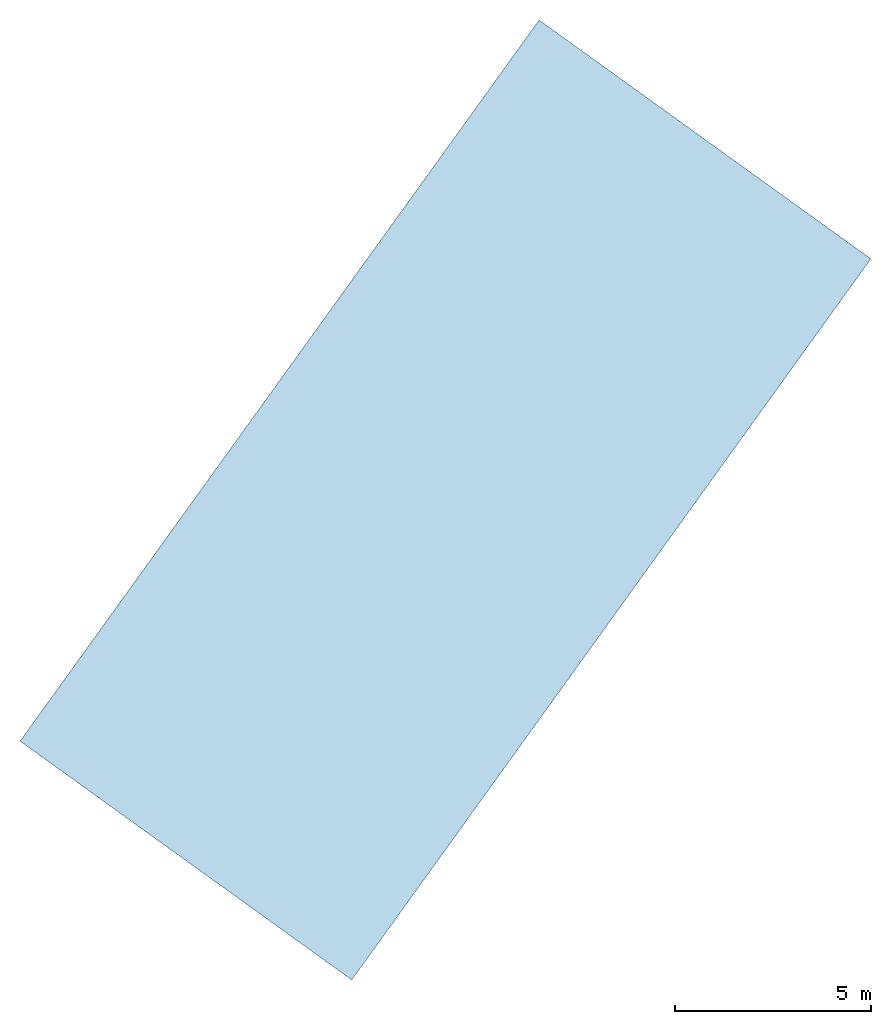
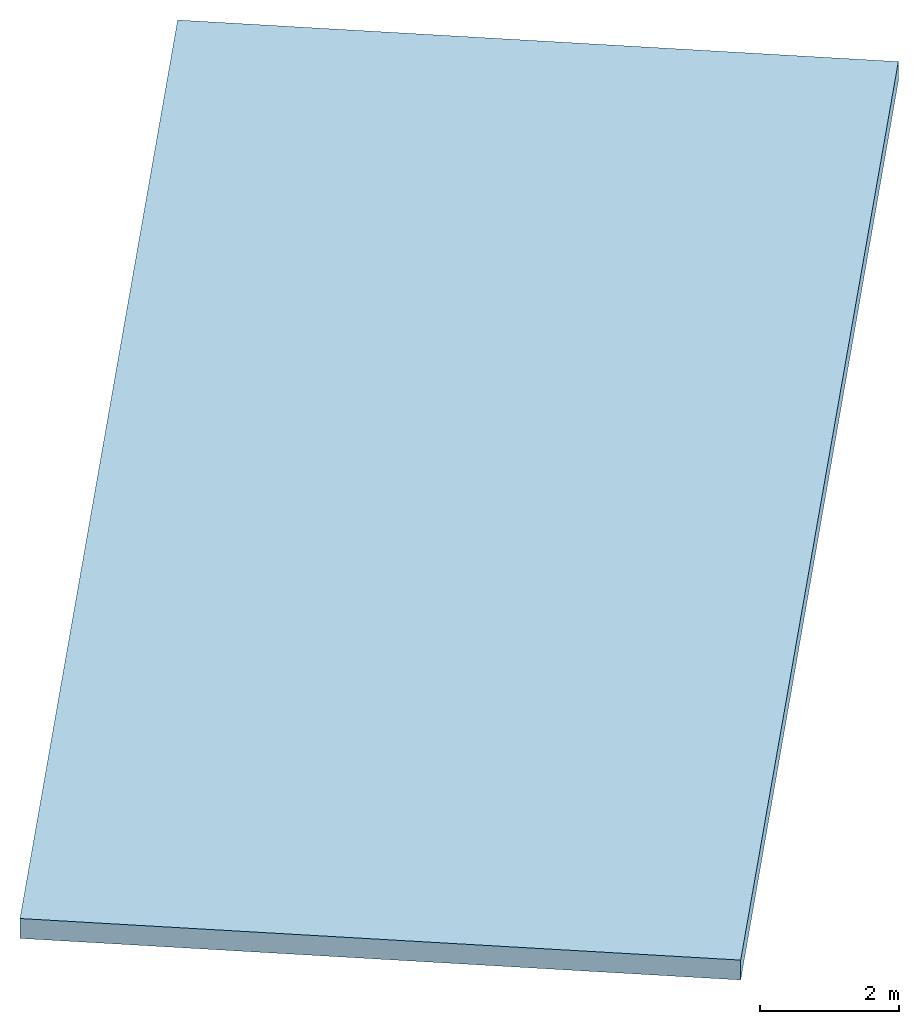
# One storey: 1 slab.
"""IFC2X3 building model written with IfcOpenShell, lengths in millimetres."""

import ifcopenshell
import ifcopenshell.guid

model = None  # the IFC model being written
_history = None  # IfcOwnerHistory: only IFC2X3 demands one
_inside = {}  # id of a spatial element -> (the spatial element, [elements in it])
_under = {}  # id of a project, library or spatial element -> (it, [spatial elements below it])
_declared = {}  # id of a project -> (the project, [libraries it declares])
_typed = {}  # id of a type object -> (the type object, [elements of that type])
_made_of = {}  # id of a material, layer set ... -> (it, [elements and type objects made of it])


def new_model(schema):
    """Start an empty IFC model of exactly this schema.

    Asked for "IFC4X3", IfcOpenShell would pick the latest addendum, in which some entities
    have other attributes; the version numbers below select the first issue.
    IFC2X3 requires an IfcOwnerHistory on every rooted entity: one is made here for all.
    """
    global model, _history
    if schema == "IFC4X3":
        model = ifcopenshell.file(schema_version=(4, 3, 0, 0))
    else:
        model = ifcopenshell.file(schema=schema)
    _inside.clear()
    _under.clear()
    _declared.clear()
    _typed.clear()
    _made_of.clear()
    _history = None
    if model.schema == "IFC2X3":
        org = make("IfcOrganization", Name="unknown")
        user = make(
            "IfcPersonAndOrganization",
            ThePerson=make("IfcPerson", FamilyName="unknown"),
            TheOrganization=org,
        )
        app = make(
            "IfcApplication",
            ApplicationDeveloper=org,
            Version="unknown",
            ApplicationFullName="unknown",
            ApplicationIdentifier="unknown",
        )
        _history = make(
            "IfcOwnerHistory",
            OwningUser=user,
            OwningApplication=app,
            ChangeAction="ADDED",
            CreationDate=0,
        )
    return model


def make(cls, **values):
    """One entity of the class cls with the attributes given. An attribute that is None is left unset."""
    return model.create_entity(
        cls, **{name: value for name, value in values.items() if value is not None}
    )


def entity(cls, *values):
    """Any entity or typed value of the class cls, its attributes in the order of the schema. None: left unset."""
    e = model.create_entity(cls)
    for i, value in enumerate(values):
        if value is not None:
            e[i] = value
    return e


def rooted(cls, **values):
    """An entity with a GlobalId (a new one), such as an element, a storey or a relation."""
    return make(cls, GlobalId=ifcopenshell.guid.new(), OwnerHistory=_history, **values)


def si_unit(unit_type, name, prefix=None):
    """IfcSIUnit, for example si_unit("LENGTHUNIT", "METRE", prefix="MILLI")."""
    return make("IfcSIUnit", UnitType=unit_type, Prefix=prefix, Name=name)


def converted_unit(unit_type, name, factor, base, dimensions=None, offset=None):
    """IfcConversionBasedUnit, such as the inch: factor (a typed value) times the base unit."""
    return make(
        "IfcConversionBasedUnit"
        if offset is None
        else "IfcConversionBasedUnitWithOffset",
        ConversionOffset=offset,
        Dimensions=None
        if dimensions is None
        else entity("IfcDimensionalExponents", *dimensions),
        UnitType=unit_type,
        Name=name,
        ConversionFactor=make(
            "IfcMeasureWithUnit", ValueComponent=factor, UnitComponent=base
        ),
    )


def derived_unit(unit_type, elements):
    """IfcDerivedUnit: a product of units, each with its exponent."""
    return make(
        "IfcDerivedUnit",
        Elements=[
            make("IfcDerivedUnitElement", Unit=unit, Exponent=power)
            for unit, power in elements
        ],
        UnitType=unit_type,
    )


def assignment(units):
    """IfcUnitAssignment: the units of a project."""
    return None if units is None else make("IfcUnitAssignment", Units=units)


def point(xyz):
    """IfcCartesianPoint."""
    return None if xyz is None else make("IfcCartesianPoint", Coordinates=xyz)


def direction(xyz):
    """IfcDirection."""
    return None if xyz is None else make("IfcDirection", DirectionRatios=xyz)


def frame(location, z_axis=None, x_axis=None):
    """IfcAxis2Placement3D, a coordinate frame: its origin and axes. An axis left out is left unset."""
    return make(
        "IfcAxis2Placement3D",
        Location=point(location),
        Axis=direction(z_axis),
        RefDirection=direction(x_axis),
    )


def origin():
    """The frame at (0, 0, 0) with its axes left unset."""
    return frame((0.0, 0.0, 0.0))


def origin_with_axes():
    """The frame at (0, 0, 0) with the z axis (0, 0, 1) and the x axis (1, 0, 0) written out."""
    return frame((0.0, 0.0, 0.0), z_axis=(0.0, 0.0, 1.0), x_axis=(1.0, 0.0, 0.0))


def place(relative_to, where):
    """IfcLocalPlacement: puts the frame where relative to a parent placement (None: the world)."""
    return make(
        "IfcLocalPlacement", PlacementRelTo=relative_to, RelativePlacement=where
    )


def context(
    kind, dimensions, precision=None, world=None, true_north=None, identifier=None
):
    """IfcGeometricRepresentationContext, for example the 3D "Model" context."""
    return make(
        "IfcGeometricRepresentationContext",
        ContextIdentifier=identifier,
        ContextType=kind,
        CoordinateSpaceDimension=dimensions,
        Precision=precision,
        WorldCoordinateSystem=world,
        TrueNorth=true_north,
    )


def subcontext(parent, identifier, kind, view, scale=None):
    """IfcGeometricRepresentationSubContext, for example "Body" below "Model"."""
    return make(
        "IfcGeometricRepresentationSubContext",
        ContextIdentifier=identifier,
        ContextType=kind,
        ParentContext=parent,
        TargetScale=scale,
        TargetView=view,
    )


def project(units=None, contexts=None):
    """IfcProject with its units and contexts."""
    return rooted(
        "IfcProject",
        Name="project",
        RepresentationContexts=contexts,
        UnitsInContext=assignment(units),
    )


def spatial(cls, under=None, at=None, **own):
    """A site, building, storey or space (cls), placed at a placement, below another one or the project."""
    s = rooted(cls, ObjectPlacement=at, **own)
    if under is not None:
        _under.setdefault(under.id(), (under, []))[1].append(s)
    return s


def faces_of(points, faces, orient=None, outer=None):
    """IfcFace entities. A face is a list of loops; a loop is a list of indices into points, from 0.

    orient and outer hold one flag for each loop. By default every Orientation is true, the
    first loop of a face is its IfcFaceOuterBound and the others are IfcFaceBound.
    """
    made = []
    for i, loops in enumerate(faces):
        bounds = []
        for j, loop in enumerate(loops):
            is_outer = j == 0 if outer is None else outer[i][j]
            bounds.append(
                make(
                    "IfcFaceOuterBound" if is_outer else "IfcFaceBound",
                    Bound=make("IfcPolyLoop", Polygon=[points[k] for k in loop]),
                    Orientation=True if orient is None else orient[i][j],
                )
            )
        made.append(make("IfcFace", Bounds=bounds))
    return made


def faceted_brep(points, faces, orient=None, outer=None, voids=None):
    """IfcFacetedBrep: a solid bounded by flat faces; with voids (closed shells), ...WithVoids."""
    shared = [point(p) for p in points]
    hull = make("IfcClosedShell", CfsFaces=faces_of(shared, faces, orient, outer))
    if voids is None:
        return make("IfcFacetedBrep", Outer=hull)
    return make(
        "IfcFacetedBrepWithVoids",
        Outer=hull,
        Voids=[
            make(cls, CfsFaces=faces_of(shared, fs, o, b)) for cls, fs, o, b in voids
        ],
    )


def shape(context_of_items, identifier, shape_type, items):
    """IfcShapeRepresentation: the items that make up one representation, for example the "Body"."""
    return make(
        "IfcShapeRepresentation",
        ContextOfItems=context_of_items,
        RepresentationIdentifier=identifier,
        RepresentationType=shape_type,
        Items=items,
    )


def material(Name=None, Category=None):
    """IfcMaterial."""
    return make("IfcMaterial", Name=Name, Category=Category)


def layer(
    of_material, thickness, ventilated=None, Name=None, Category=None, Priority=None
):
    """IfcMaterialLayer: one layer of a wall or slab, of a material (None: an air gap)."""
    return make(
        "IfcMaterialLayer",
        Material=of_material,
        LayerThickness=thickness,
        IsVentilated=ventilated,
        Name=Name,
        Category=Category,
        Priority=Priority,
    )


def layer_set(layers, Name=None):
    """IfcMaterialLayerSet."""
    return make("IfcMaterialLayerSet", MaterialLayers=layers, LayerSetName=Name)


def made_of(thing, what):
    """Note that an element or type object is made of a material, layer set ...; save() writes the relation."""
    if what is not None:
        _made_of.setdefault(what.id(), (what, []))[1].append(thing)
    return thing


def type_object(cls, material=None, **own):
    """A type object (cls), such as IfcWallType, which elements share."""
    return made_of(rooted(cls, **own), material)


def element(
    cls,
    number,
    at=None,
    inside=None,
    cuts=None,
    type_object=None,
    material=None,
    context=None,
    identifier="Body",
    shape_type=None,
    held_by="IfcProductDefinitionShape",
    body=None,
    shapes=None,
    **own,
):
    """One element of the class cls, such as IfcWall. Its Tag is "e" and its number.

    at: its placement. inside: the storey or other place that contains it. cuts: it is an
    opening in that element (IfcRelVoidsElement). A single representation is given by context,
    identifier, shape_type and body (its items); several are given by shapes. held_by: the class
    of the entity that holds the representations. save() writes the other relations.
    """
    e = rooted(cls, Tag="e%d" % number, ObjectPlacement=at, **own)
    if body is not None:
        shapes = [shape(context, identifier, shape_type, body)]
    if shapes is not None:
        e.Representation = make(held_by, Representations=shapes)
    if inside is not None:
        _inside.setdefault(inside.id(), (inside, []))[1].append(e)
    if cuts is not None:
        rooted(
            "IfcRelVoidsElement", RelatingBuildingElement=cuts, RelatedOpeningElement=e
        )
    if type_object is not None:
        _typed.setdefault(type_object.id(), (type_object, []))[1].append(e)
    return made_of(e, material)


def aggregate(whole, parts):
    """IfcRelAggregates: a whole, such as a stair, and the parts it consists of."""
    return rooted("IfcRelAggregates", RelatingObject=whole, RelatedObjects=parts)


def save(model, path):
    """Write the relations noted so far, then the file.

    IfcRelAggregates (storeys below a building ...), IfcRelContainedInSpatialStructure (elements
    in a storey), IfcRelDefinesByType, IfcRelAssociatesMaterial and IfcRelDeclares: one each for
    every whole, place, type object, material and project.
    """
    for whole, parts in _under.values():
        aggregate(whole, parts)
    for where, things in _inside.values():
        rooted(
            "IfcRelContainedInSpatialStructure",
            RelatedElements=things,
            RelatingStructure=where,
        )
    for kind, things in _typed.values():
        rooted("IfcRelDefinesByType", RelatedObjects=things, RelatingType=kind)
    for what, things in _made_of.values():
        rooted("IfcRelAssociatesMaterial", RelatedObjects=things, RelatingMaterial=what)
    for by, libraries in _declared.values():
        rooted("IfcRelDeclares", RelatingContext=by, RelatedDefinitions=libraries)
    model.write(path)


model = new_model("IFC2X3")

# Units and contexts
model_context = context("Model", 3, precision=0.01, world=origin(), true_north=direction((6.12323399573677e-17, 1.0)))
plan_context = context("Plan", 3, precision=1e-05, world=origin_with_axes())
body_context = subcontext(model_context, "Body", "Model", "MODEL_VIEW")
ifc_project = project(units=[converted_unit("PLANEANGLEUNIT", "DEGREE", entity("IfcPositiveLengthMeasure", 0.0174532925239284), si_unit("PLANEANGLEUNIT", "RADIAN"), dimensions=[0, 0, 0, 0, 0, 0, 0]), si_unit("AREAUNIT", "SQUARE_METRE"), si_unit("LENGTHUNIT", "METRE", prefix="MILLI"), si_unit("MASSUNIT", "GRAM", prefix="KILO"), si_unit("POWERUNIT", "WATT"), si_unit("PRESSUREUNIT", "PASCAL", prefix="KILO"), si_unit("FORCEUNIT", "NEWTON", prefix="KILO"), si_unit("ELECTRICVOLTAGEUNIT", "VOLT"), si_unit("ELECTRICCURRENTUNIT", "AMPERE"), si_unit("THERMODYNAMICTEMPERATUREUNIT", "DEGREE_CELSIUS"), si_unit("TIMEUNIT", "SECOND"), si_unit("VOLUMEUNIT", "CUBIC_METRE"), derived_unit("LINEARVELOCITYUNIT", [(si_unit("LENGTHUNIT", "METRE"), 1), (si_unit("TIMEUNIT", "SECOND"), -1)]), derived_unit("VOLUMETRICFLOWRATEUNIT", [(si_unit("VOLUMEUNIT", "CUBIC_METRE"), 1), (si_unit("TIMEUNIT", "SECOND"), -1)]), derived_unit("THERMALTRANSMITTANCEUNIT", [(si_unit("POWERUNIT", "WATT"), 1), (si_unit("THERMODYNAMICTEMPERATUREUNIT", "KELVIN"), -1), (si_unit("AREAUNIT", "SQUARE_METRE"), -1)]), derived_unit("SOUNDPRESSUREUNIT", [(si_unit("PRESSUREUNIT", "PASCAL"), 1)])], contexts=[model_context, plan_context])

# Site, building, storey
site_placement = place(None, frame((-305029.896016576, -232111.759730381, 0.0), z_axis=(0.0, 0.0, 1.0), x_axis=(-0.160806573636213, 0.986985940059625, 0.0)))
site = spatial("IfcSite", under=ifc_project, at=site_placement, Name="Default", CompositionType="ELEMENT")
building_placement = place(site_placement, frame((0.0, 0.0, 0.0), z_axis=(0.0, 0.0, 1.0), x_axis=(1.0, -2.77555756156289e-17, 0.0)))
building = spatial("IfcBuilding", under=site, at=building_placement, Name="br001-a-200-1-0001", CompositionType="ELEMENT")
storey_placement = place(building_placement, frame((0.0, 0.0, 59700.0), z_axis=(0.0, 0.0, 1.0), x_axis=(1.0, -2.77555756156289e-17, 0.0)))
storey = spatial("IfcBuildingStorey", under=building, at=storey_placement, Name="H03-Nivå G-4,3m", CompositionType="ELEMENT", Elevation=59700.0)

# Slab
ifc_material = material(Name="_NSW Betong")
ifc_layer = layer(ifc_material, 650.0)
ifc_layer_set = layer_set([ifc_layer], Name="Floor:Generic 650mm")
slab_type = type_object("IfcSlabType", Name="Floor:Generic 650mm", PredefinedType="FLOOR", material=ifc_layer_set)
slab_placement = place(storey_placement, frame((1109541.49836614, -755646.378367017, -650.0), z_axis=(0.0, 0.0, 1.0), x_axis=(1.0, -2.77555756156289e-17, 0.0)))
element("IfcSlab", 1, at=slab_placement, inside=storey, type_object=slab_type, Name="Floor:Generic 650mm", ObjectType="Floor:Generic 650mm", PredefinedType="FLOOR", context=body_context, shape_type="Brep", body=[
    faceted_brep([(69774.5121246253, 82960.7065605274, 0.0), (62391.4048361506, 75577.5992720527, 0.0), (78439.6579115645, 59529.3461966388, 1.70530256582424e-13), (85822.7652000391, 66912.4534851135, 0.0), (78439.6579115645, 59529.3461966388, 350.0), (85822.7652000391, 66912.4534851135, 350.0), (69774.5121246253, 82960.7065605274, 350.0), (62391.4048361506, 75577.5992720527, 350.0)], [[[0, 1, 2, 3]], [[3, 2, 4, 5]], [[0, 3, 5, 6]], [[1, 0, 6, 7]], [[2, 1, 7, 4]], [[5, 4, 7, 6]]], orient=[[False], [False], [False], [False], [False], [False]]),
])

save(model, "model.ifc")
